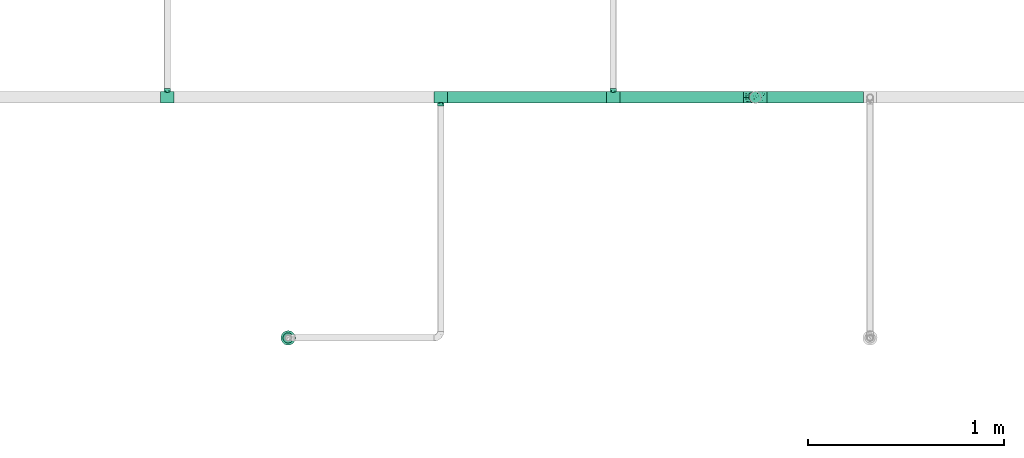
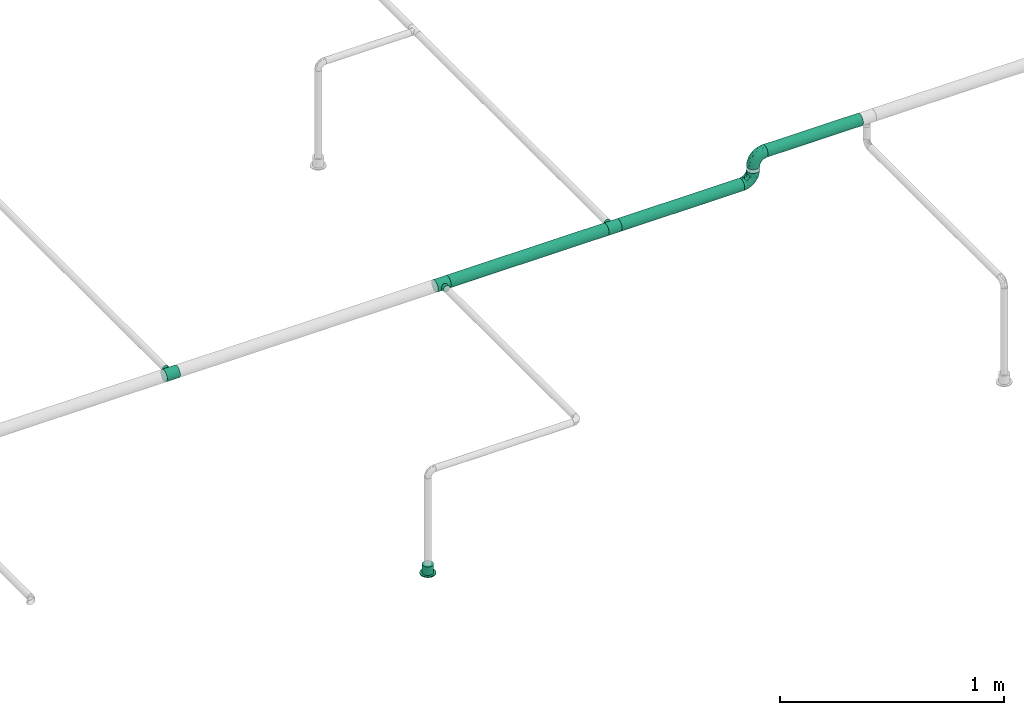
# One storey, part 20 of 95: 5 flow fittings, 3 flow segments, 1 flow terminal.
"""IFC2X3 building model written with IfcOpenShell, lengths in millimetres."""

from ifc_helpers import new_model, entity, si_unit, converted_unit, derived_unit, direction, frame, origin_with_axes, origin_2d_with_axis, place, context, subcontext, project, spatial, hollow_circle, extrude, open_shell, surface_model, source, transform, mapped, type_object, element, save


model = new_model("IFC2X3")

# Units and contexts
model_context = context("Model", 3, precision=0.01, world=frame((0.0, 4.29681676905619e-09, 0.0)), true_north=direction((4.01073788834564e-13, 1.0)))
plan_context = context("Plan", 3, precision=0.01, world=frame((0.0, 4.29681676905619e-09, 0.0)), true_north=direction((4.01073788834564e-13, 1.0)))
body_context = subcontext(model_context, "Body", "Model", "MODEL_VIEW")
ifc_project = project(units=[converted_unit("PLANEANGLEUNIT", "DEGREE", entity("IfcPositiveLengthMeasure", 0.0174532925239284), si_unit("PLANEANGLEUNIT", "RADIAN"), dimensions=[0, 0, 0, 0, 0, 0, 0]), si_unit("AREAUNIT", "SQUARE_METRE"), si_unit("LENGTHUNIT", "METRE", prefix="MILLI"), si_unit("MASSUNIT", "GRAM", prefix="KILO"), si_unit("POWERUNIT", "WATT"), si_unit("PRESSUREUNIT", "PASCAL"), si_unit("FORCEUNIT", "NEWTON", prefix="KILO"), si_unit("ELECTRICVOLTAGEUNIT", "VOLT"), si_unit("ELECTRICCURRENTUNIT", "AMPERE"), si_unit("THERMODYNAMICTEMPERATUREUNIT", "DEGREE_CELSIUS"), si_unit("TIMEUNIT", "SECOND"), si_unit("VOLUMEUNIT", "CUBIC_METRE"), derived_unit("LINEARVELOCITYUNIT", [(si_unit("LENGTHUNIT", "METRE"), 1), (si_unit("TIMEUNIT", "SECOND"), -1)]), derived_unit("VOLUMETRICFLOWRATEUNIT", [(si_unit("VOLUMEUNIT", "CUBIC_METRE"), 1), (si_unit("TIMEUNIT", "SECOND"), -1)]), derived_unit("THERMALTRANSMITTANCEUNIT", [(si_unit("POWERUNIT", "WATT"), 1), (si_unit("THERMODYNAMICTEMPERATUREUNIT", "KELVIN"), -1), (si_unit("AREAUNIT", "SQUARE_METRE"), -1)]), derived_unit("SOUNDPRESSUREUNIT", [(si_unit("PRESSUREUNIT", "PASCAL"), 1)])], contexts=[model_context, plan_context])

# Site, building, storey
site_placement = place(None, frame((0.0, -4.29681676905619e-09, 0.0), z_axis=(0.0, 0.0, 1.0), x_axis=(1.0, 0.0, 0.0)))
site = spatial("IfcSite", under=ifc_project, at=site_placement, CompositionType="ELEMENT")
building_placement = place(site_placement, frame((0.0, 4.29681676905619e-09, 0.0), z_axis=(0.0, 0.0, 1.0), x_axis=(1.0, 0.0, 0.0)))
building = spatial("IfcBuilding", under=site, at=building_placement, Name="mc-building", CompositionType="ELEMENT")
storey_placement = place(building_placement, frame((0.0, 0.0, 210900.0), z_axis=(0.0, 0.0, 1.0), x_axis=(1.0, 0.0, 0.0)))
storey = spatial("IfcBuildingStorey", under=building, at=storey_placement, Name="Nivå F", CompositionType="ELEMENT", Elevation=210900.0)

# Flow fittings
pipe_fitting_type_1 = type_object("IfcPipeFittingType", Name="magi_pipe_fe_elbow_short_001", PredefinedType="BEND")
shared_shape_1 = source(origin_with_axes(), body_context, "Body", "SurfaceModel", [
    surface_model("IfcShellBasedSurfaceModel", [(-60.4, 15.1, -26.15397), (-60.4, 7.81634, -29.17096), (-60.4, 0.0, -30.2), (-60.4, -21.35462, -21.35462), (-60.4, 26.15397, -15.1), (-60.4, 21.35462, -21.35462), (-60.4, 29.17096, -7.81634), (-60.4, -15.1, -26.15397), (-60.4, -7.81634, -29.17096), (-60.4, -26.15397, -15.1), (-60.4, -29.17096, -7.81634), (-60.4, -30.2, 0.0), (-60.4, -29.17096, 7.81634), (-60.4, 29.17096, 7.81634), (-60.4, -21.35462, 21.35462), (-60.4, 26.15397, 15.1), (-60.4, 21.35462, 21.35462), (-60.4, 7.81634, 29.17096), (-60.4, 15.1, 26.15397), (-60.4, -26.15397, 15.1), (-60.4, -7.81634, 29.17096), (-60.4, 0.0, 30.2), (-60.4, -15.1, 26.15397), (-60.4, 30.2, 0.0), (0.0, 60.4, -30.2), (-7.81634, 60.4, -29.17096), (-15.1, 60.4, -26.15397), (-26.15397, 60.4, -15.1), (-29.17096, 60.4, -7.81634), (-21.35462, 60.4, -21.35462), (29.17096, 60.4, -7.81634), (7.81634, 60.4, -29.17096), (21.35462, 60.4, -21.35462), (15.1, 60.4, -26.15397), (26.15397, 60.4, -15.1), (29.17096, 60.4, 7.81634), (30.2, 60.4, 0.0), (-29.17096, 60.4, 7.81634), (21.35462, 60.4, 21.35462), (-21.35462, 60.4, 21.35462), (-26.15397, 60.4, 15.1), (-15.1, 60.4, 26.15397), (-7.81634, 60.4, 29.17096), (26.15397, 60.4, 15.1), (15.1, 60.4, 26.15397), (0.0, 60.4, 30.2), (7.81634, 60.4, 29.17096), (-30.2, 60.4, 0.0), (-40.79975, -26.48639, 9.49143), (-44.2927, -23.46036, 16.95222), (-32.40306, -25.76572, 0.0), (-45.54716, -27.84754, 0.0), (-7.73382, -10.42985, 11.64553), (-2.102, -8.06735, 6.35117), (1.74449, -1.74448, 12.51332), (-46.13593, -4.00068, 29.68351), (-42.2898, 4.62925, 30.14853), (10.31662, 7.37496, 11.34434), (18.44156, 24.57514, 15.02148), (7.07276, 10.95732, 19.27498), (-30.06693, -0.27102, 29.27145), (-44.17726, -11.39441, 27.16031), (-23.4551, -7.13383, 25.24246), (-38.74025, -17.25266, 22.43475), (-27.059, -23.14697, 6.2131), (-19.77486, -19.33133, 0.0), (-10.95732, -7.07276, 19.27498), (-5.39458, 5.39458, 24.69106), (-29.52069, 48.20084, 13.12597), (-25.22813, 47.01796, 19.8404), (-11.27311, 52.093, 28.2877), (-4.13904, 45.17494, 30.12582), (-46.55352, 11.8443, 28.52822), (-7.88305, 20.22717, 29.65331), (-15.00576, 5.54025, 28.20072), (-3.0852, 16.31623, 27.75343), (-52.24998, 18.2886, 24.60768), (-10.49591, 29.69865, 30.14582), (-22.36958, 22.36958, 29.4662), (-17.98262, 13.19715, 30.04443), (-47.74519, 32.16745, 6.63994), (-48.21585, 29.51581, 13.12396), (-37.49729, 37.49729, 11.28901), (-47.20967, 25.1754, 19.81929), (17.25266, 38.74025, 22.43475), (-31.32046, 40.03273, 17.09289), (11.39441, 44.17725, 27.16031), (23.46036, 44.2927, 16.95222), (26.48639, 40.79975, 9.49143), (-7.14666, -12.89694, 0.0), (-14.66463, -16.61192, 7.82462), (4.00068, 46.13593, 29.68351), (-33.18602, 12.93608, 29.65955), (-29.63414, 7.40029, 30.18711), (19.33133, 19.77486, 0.0), (23.14697, 27.059, 6.2131), (16.61192, 14.66463, 7.82462), (27.84754, 45.54716, 0.0), (-32.10611, 20.49149, 27.93323), (-24.57514, -18.44156, 15.02148), (-21.89487, 39.03366, 25.38224), (-18.45005, 50.6405, 24.73297), (-31.78933, 48.71949, 6.47886), (-37.84917, 39.61073, 5.315), (13.91334, 24.32737, 20.46816), (7.13383, 23.4551, 25.24246), (-34.24603, 45.3, 0.0), (-27.95749, 31.89166, 24.81537), (-41.58677, 20.50028, 25.43151), (-0.46157, 0.46157, 17.84239), (-17.23338, 31.26213, 29.03145), (-24.05994, 29.23812, 27.47858), (-13.06094, 40.92174, 28.76128), (-31.83392, 33.72702, 21.39203), (-38.78737, 32.45032, 16.84022), (0.27102, 30.06693, 29.27145), (-24.21469, -13.23741, 21.05734), (8.23548, 2.19333, 6.02161), (25.76572, 32.40306, 0.0), (12.89694, 7.14666, 0.0), (-45.3, 34.24603, 0.0), (2.87514, -2.87514, 0.0), (-44.53432, 26.00869, -20.11577), (-48.18822, 29.5248, -13.12766), (-24.67192, -7.62159, -25.33714), (-26.22398, -0.37671, -28.72374), (-12.13397, -0.50536, -24.74577), (-47.80891, 3.81859, -30.10171), (-44.05719, -27.03585, -9.84546), (-37.94552, -22.39569, -16.35738), (-28.81663, -22.64668, -10.132), (-43.93799, 12.32789, -28.63778), (-33.27, 7.1392, -30.19348), (-26.0087, 44.53432, -20.11577), (-48.89164, 31.68872, -6.60822), (-18.95522, 47.41145, -24.9828), (-12.32789, 43.93799, -28.63778), (-38.42778, 38.42778, -7.21049), (18.04263, 43.69152, -22.80146), (10.42233, 38.24532, -26.85918), (11.90576, 51.00473, -27.48545), (-5.88381, -10.62327, -7.95335), (-5.9694, -7.83116, -13.76182), (3.24899, -2.56331, -7.96861), (-17.62229, 16.32998, -30.18286), (-28.62959, 17.86952, -29.30113), (-47.41145, 18.95522, -24.98279), (-50.84455, -24.04089, -17.54629), (-29.38053, 34.30665, -22.74674), (-27.91099, 27.91099, -26.51666), (-36.91219, 25.51094, -23.99233), (2.63361, -0.55507, -12.94367), (-43.69152, -18.04263, -22.80146), (22.39569, 37.94552, -16.35738), (27.03585, 44.05719, -9.84546), (22.64668, 28.81663, -10.132), (-51.00473, -11.90576, -27.48545), (3.80785, 44.49426, -29.64782), (-19.0921, -14.69952, -16.47487), (-22.5489, -12.31934, -21.1263), (-10.94772, -7.46239, -18.88204), (-32.95885, -13.78948, -23.71249), (-38.24532, -10.42233, -26.85918), (-44.49427, -3.80785, -29.64782), (-22.6301, 37.15314, -25.58239), (-31.68872, 48.89164, -6.60822), (-3.8186, 47.80891, -30.10171), (-10.66133, 10.66133, -28.51691), (0.37671, 26.22398, -28.72374), (1.27136, 14.18619, -25.18541), (-29.5248, 48.18821, -13.12766), (-36.27113, 36.27113, -14.88553), (24.04089, 50.84455, -17.54629), (17.50188, 24.2636, -16.21902), (9.73525, 11.44907, -16.75087), (12.31934, 22.5489, -21.1263), (6.24176, 25.78208, -26.38266), (-7.1392, 33.27, -30.19348), (-36.7166, 19.4356, -27.21946), (-18.00754, 29.38864, -29.15505), (-0.28629, 0.28629, -17.49884), (-13.98848, -16.88492, -5.19509), (15.48569, 15.00432, -11.24742), (16.88492, 13.98848, -5.19509), (3.55782, 9.20508, -21.18402), (-15.00432, -15.48569, -11.24742)], [open_shell([[[0, 1, 2]], [[0, 2, 3]], [[4, 0, 3]], [[5, 0, 4]], [[6, 4, 3]], [[7, 3, 8]], [[3, 2, 8]], [[9, 10, 3]], [[3, 10, 6]], [[11, 12, 10]], [[13, 6, 10]], [[13, 10, 14]], [[15, 13, 16]], [[17, 18, 16]], [[13, 17, 16]], [[17, 13, 14]], [[19, 14, 12]], [[12, 14, 10]], [[20, 21, 22]], [[17, 14, 22]], [[17, 22, 21]], [[13, 23, 6]], [[24, 25, 26]], [[24, 26, 27]], [[27, 28, 24]], [[27, 26, 29]], [[24, 28, 30]], [[31, 32, 33]], [[31, 24, 32]], [[32, 30, 34]], [[24, 30, 32]], [[30, 35, 36]], [[30, 28, 37]], [[38, 30, 37]], [[39, 37, 40]], [[39, 41, 42]], [[39, 42, 37]], [[38, 37, 42]], [[35, 38, 43]], [[30, 38, 35]], [[44, 45, 46]], [[44, 38, 42]], [[45, 44, 42]], [[28, 47, 37]], [[48, 49, 19]], [[50, 48, 51]], [[52, 53, 54]], [[12, 48, 19]], [[12, 51, 48]], [[21, 55, 56]], [[19, 49, 14]], [[57, 58, 59]], [[60, 61, 62]], [[63, 22, 14]], [[63, 61, 22]], [[64, 50, 65]], [[62, 66, 67]], [[40, 68, 69]], [[42, 70, 71]], [[17, 72, 18]], [[73, 74, 75]], [[18, 76, 16]], [[20, 55, 21]], [[77, 78, 79]], [[80, 81, 82]], [[15, 83, 81]], [[84, 38, 44]], [[23, 13, 80]], [[13, 15, 81]], [[68, 85, 69]], [[83, 15, 16]], [[21, 56, 17]], [[44, 86, 84]], [[16, 76, 83]], [[87, 58, 88]], [[40, 37, 68]], [[89, 90, 65]], [[45, 91, 46]], [[65, 90, 64]], [[45, 42, 71]], [[92, 93, 79]], [[88, 35, 43]], [[43, 38, 87]], [[87, 88, 43]], [[94, 95, 96]], [[88, 97, 35]], [[98, 72, 92]], [[49, 99, 63]], [[69, 100, 101]], [[82, 102, 103]], [[104, 105, 59]], [[106, 102, 47]], [[98, 107, 108]], [[102, 82, 68]], [[86, 44, 46]], [[69, 39, 40]], [[109, 54, 57]], [[110, 100, 111]], [[22, 61, 20]], [[101, 41, 39]], [[70, 42, 41]], [[112, 77, 71]], [[84, 86, 105]], [[96, 95, 58]], [[100, 69, 113]], [[72, 17, 56]], [[108, 113, 83]], [[81, 114, 82]], [[112, 110, 77]], [[91, 71, 115]], [[62, 61, 63]], [[55, 61, 60]], [[116, 99, 66]], [[74, 62, 67]], [[91, 86, 46]], [[105, 86, 115]], [[75, 105, 115]], [[109, 67, 66]], [[59, 105, 67]], [[48, 64, 99]], [[99, 49, 48]], [[63, 14, 49]], [[38, 84, 87]], [[58, 87, 84]], [[92, 72, 56]], [[76, 72, 108]], [[102, 68, 37]], [[82, 114, 85]], [[98, 111, 107]], [[112, 70, 101]], [[114, 83, 113]], [[82, 103, 80]], [[92, 79, 78]], [[115, 71, 77]], [[74, 79, 60]], [[77, 79, 73]], [[71, 91, 45]], [[86, 91, 115]], [[61, 55, 20]], [[56, 55, 60]], [[57, 54, 117]], [[104, 59, 58]], [[116, 66, 62]], [[52, 99, 90]], [[12, 11, 51]], [[97, 88, 118]], [[97, 36, 35]], [[53, 90, 89]], [[90, 53, 52]], [[94, 96, 119]], [[88, 95, 118]], [[117, 54, 53]], [[92, 56, 93]], [[98, 92, 78]], [[111, 98, 78]], [[72, 98, 108]], [[110, 111, 78]], [[107, 111, 100]], [[47, 102, 37]], [[102, 106, 103]], [[106, 120, 103]], [[103, 120, 80]], [[23, 80, 120]], [[13, 81, 80]], [[56, 60, 93]], [[60, 79, 93]], [[117, 121, 119]], [[121, 117, 53]], [[53, 89, 121]], [[119, 96, 117]], [[117, 96, 57]], [[77, 110, 78]], [[100, 110, 112]], [[83, 114, 81]], [[85, 114, 113]], [[69, 85, 113]], [[82, 85, 68]], [[109, 52, 54]], [[99, 52, 66]], [[69, 101, 39]], [[112, 101, 100]], [[100, 113, 107]], [[108, 107, 113]], [[62, 74, 60]], [[75, 74, 67]], [[105, 75, 67]], [[73, 75, 115]], [[77, 73, 115]], [[74, 73, 79]], [[99, 64, 90]], [[50, 64, 48]], [[118, 95, 94]], [[58, 95, 88]], [[58, 57, 96]], [[109, 57, 59]], [[72, 76, 18]], [[83, 76, 108]], [[101, 70, 41]], [[71, 70, 112]], [[58, 84, 104]], [[105, 104, 84]], [[67, 109, 59]], [[52, 109, 66]], [[62, 63, 116]], [[99, 116, 63]], [[122, 4, 123]], [[124, 125, 126]], [[2, 1, 127]], [[128, 129, 130]], [[127, 131, 132]], [[27, 29, 133]], [[120, 134, 23]], [[135, 26, 136]], [[123, 134, 137]], [[138, 139, 140]], [[122, 5, 4]], [[141, 142, 143]], [[144, 132, 145]], [[131, 0, 146]], [[128, 9, 147]], [[148, 149, 150]], [[128, 51, 10]], [[142, 151, 143]], [[152, 3, 7]], [[153, 154, 155]], [[156, 152, 7]], [[31, 157, 24]], [[158, 159, 160]], [[147, 9, 3]], [[129, 152, 161]], [[156, 7, 8]], [[162, 163, 125]], [[154, 34, 30]], [[120, 106, 137]], [[149, 148, 164]], [[47, 28, 165]], [[163, 8, 2]], [[4, 6, 123]], [[25, 166, 136]], [[167, 168, 169]], [[170, 133, 171]], [[25, 24, 166]], [[33, 32, 138]], [[157, 31, 140]], [[28, 27, 170]], [[32, 34, 172]], [[26, 135, 29]], [[132, 131, 145]], [[31, 33, 140]], [[173, 174, 175]], [[169, 168, 176]], [[25, 136, 26]], [[175, 138, 173]], [[168, 177, 157]], [[163, 162, 156]], [[153, 172, 154]], [[9, 128, 10]], [[154, 97, 118]], [[131, 178, 145]], [[0, 5, 146]], [[175, 139, 138]], [[155, 118, 94]], [[131, 1, 0]], [[146, 178, 131]], [[170, 137, 165]], [[149, 179, 145]], [[171, 133, 148]], [[160, 180, 142]], [[65, 181, 89]], [[170, 165, 28]], [[137, 171, 123]], [[172, 138, 32]], [[138, 153, 173]], [[168, 157, 139]], [[166, 157, 177]], [[176, 175, 169]], [[168, 167, 144]], [[154, 30, 97]], [[155, 182, 173]], [[162, 124, 161]], [[147, 152, 129]], [[127, 163, 2]], [[132, 144, 125]], [[132, 125, 163]], [[125, 167, 126]], [[129, 158, 130]], [[30, 36, 97]], [[143, 182, 183]], [[169, 126, 167]], [[5, 122, 146]], [[178, 150, 149]], [[136, 179, 164]], [[133, 29, 135]], [[123, 6, 134]], [[122, 123, 171]], [[133, 170, 27]], [[137, 170, 171]], [[184, 175, 174]], [[180, 160, 126]], [[126, 169, 184]], [[126, 159, 124]], [[51, 128, 50]], [[51, 11, 10]], [[131, 127, 1]], [[163, 127, 132]], [[157, 166, 24]], [[136, 166, 177]], [[164, 179, 149]], [[144, 167, 125]], [[179, 144, 145]], [[168, 144, 177]], [[136, 177, 179]], [[144, 179, 177]], [[141, 121, 89]], [[89, 181, 141]], [[154, 118, 155]], [[183, 155, 94]], [[143, 183, 119]], [[119, 183, 94]], [[155, 183, 182]], [[181, 130, 185]], [[50, 128, 130]], [[130, 181, 65]], [[50, 130, 65]], [[141, 181, 185]], [[142, 141, 185]], [[143, 121, 141]], [[158, 160, 142]], [[142, 180, 151]], [[158, 142, 185]], [[126, 160, 159]], [[130, 158, 185]], [[129, 159, 158]], [[23, 134, 6]], [[120, 137, 134]], [[137, 106, 165]], [[47, 165, 106]], [[174, 151, 180]], [[182, 143, 151]], [[150, 146, 122]], [[149, 145, 178]], [[146, 150, 178]], [[122, 171, 148]], [[148, 150, 122]], [[164, 133, 135]], [[133, 164, 148]], [[164, 135, 136]], [[138, 140, 33]], [[157, 140, 139]], [[154, 172, 34]], [[138, 172, 153]], [[163, 156, 8]], [[152, 156, 162]], [[152, 147, 3]], [[128, 147, 129]], [[155, 173, 153]], [[174, 173, 182]], [[151, 174, 182]], [[174, 180, 184]], [[126, 184, 180]], [[175, 184, 169]], [[168, 139, 176]], [[175, 176, 139]], [[161, 124, 159]], [[125, 124, 162]], [[129, 161, 159]], [[162, 161, 152]], [[143, 119, 121]]])]),
])
for number, where, z_axis, x_axis, name in (
    (1, (528108.06458, 450838.0, 4315.0), (0.0, -1.0, 0.0), (1.0, 0.0, 0.0), "magi_pipe_fe_elbow_short_001"),
    (2, (528108.06458, 450838.0, 4455.47503999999), (0.0, 1.0, 0.0), (0.0, 0.0, 1.0), "magi_pipe_fe_elbow_short_001"),
):
    element("IfcFlowFitting", number, at=place(storey_placement, frame(where, z_axis=z_axis, x_axis=x_axis)), inside=storey, type_object=pipe_fitting_type_1, Name=name, context=body_context, shape_type="MappedRepresentation", body=[
        mapped(shared_shape_1, transform((0.0, 0.0, 0.0), scale=1.0)),
    ])
pipe_fitting_type_2 = type_object("IfcPipeFittingType", Name="magi_pipe_fe_tee_centric_90_NOR", PredefinedType="JUNCTION")
shared_shape_2 = source(origin_with_axes(), body_context, "Body", "SurfaceModel", [
    surface_model("IfcShellBasedSurfaceModel", [(-33.8, 15.1, -26.15397), (-33.8, 7.81634, -29.17096), (-33.8, 0.0, -30.2), (-33.8, 29.17096, -7.81634), (-33.8, 26.15397, -15.1), (-33.8, 21.35462, -21.35462), (-33.8, 30.2, 0.0), (-33.8, -30.2, 0.0), (-33.8, -15.1, -26.15397), (-33.8, -21.35462, -21.35462), (-33.8, -7.81634, -29.17096), (-33.8, -26.15397, -15.1), (-33.8, -29.17096, -7.81634), (-33.8, 26.15397, 15.1), (-33.8, 29.17096, 7.81634), (-33.8, 15.1, 26.15397), (-33.8, -21.35462, 21.35462), (-33.8, 21.35462, 21.35462), (-33.8, 7.81634, 29.17096), (-33.8, -29.17096, 7.81634), (-33.8, -26.15397, 15.1), (-33.8, -7.81634, 29.17096), (-33.8, 0.0, 30.2), (-33.8, -15.1, 26.15397), (33.8, 29.17096, -7.81634), (33.8, 0.0, -30.2), (33.8, 7.81634, -29.17096), (33.8, 21.35462, -21.35462), (33.8, 15.1, -26.15397), (33.8, 26.15397, -15.1), (33.8, -30.2, 0.0), (33.8, -7.81634, -29.17096), (33.8, -21.35462, -21.35462), (33.8, -15.1, -26.15397), (33.8, -29.17096, -7.81634), (33.8, -26.15397, -15.1), (33.8, 30.2, 0.0), (33.8, 29.17096, 7.81634), (33.8, 26.15397, 15.1), (33.8, -29.17096, 7.81634), (33.8, 15.1, 26.15397), (33.8, 7.81634, 29.17096), (33.8, 21.35462, 21.35462), (33.8, -21.35462, 21.35462), (33.8, -26.15397, 15.1), (33.8, -15.1, 26.15397), (33.8, 0.0, 30.2), (33.8, -7.81634, 29.17096), (33.8, -29.68548, 3.90817), (15.846, -29.62306, 5.87488), (16.373, -29.91153, 2.93744), (12.91037, -28.16217, 10.90561), (2.99213, -25.2068, 16.63301), (16.9, -30.2, 0.0), (33.8, -27.66246, 11.45817), (8.50854, -26.43531, 14.60187), (-8.51006, -26.43579, 14.60099), (-33.8, -27.66246, 11.45817), (-12.91447, -28.16405, 10.90075), (-15.84655, -29.62335, 5.87341), (-33.8, -29.68548, 3.90817), (-16.37327, -29.91168, 2.93671), (-16.9, -30.2, 0.0), (-2.99705, -25.20739, 16.63213), (2.99213, -25.2068, -16.63301), (-16.37327, -29.91168, -2.93671), (8.50854, -26.43531, -14.60187), (33.8, -27.66246, -11.45817), (16.373, -29.91153, -2.93744), (-33.8, -29.68548, -3.90817), (-15.84655, -29.62335, -5.87341), (15.846, -29.62306, -5.87488), (12.91037, -28.16217, -10.90561), (33.8, -29.68548, -3.90817), (-2.99705, -25.20739, -16.63213), (-8.51006, -26.43579, -14.60099), (-12.91447, -28.16405, -10.90075), (-33.8, -27.66246, -11.45817), (4.37404, -45.3, -16.32415), (-16.9, -45.3, 0.0), (0.0, -45.3, -16.9), (14.63583, -45.3, -8.45), (8.45, -45.3, -14.63583), (16.32415, -45.3, -4.37404), (11.9501, -45.3, -11.9501), (-11.9501, -45.3, -11.9501), (-8.45, -45.3, -14.63583), (-4.37404, -45.3, -16.32415), (-14.63583, -45.3, -8.45), (-16.32415, -45.3, -4.37404), (16.9, -45.3, 0.0), (8.45, -45.3, 14.63583), (16.32415, -45.3, 4.37404), (14.63583, -45.3, 8.45), (-8.45, -45.3, 14.63583), (11.9501, -45.3, 11.9501), (4.37404, -45.3, 16.32415), (-16.32415, -45.3, 4.37404), (-11.9501, -45.3, 11.9501), (-14.63583, -45.3, 8.45), (0.0, -45.3, 16.9), (-4.37404, -45.3, 16.32415), (-5.75355, -25.82159, 15.61656), (-0.00246, -25.20709, 16.63257), (5.75034, -25.82105, 15.61744), (5.75034, -25.82105, -15.61744), (-0.00246, -25.20709, -16.63257), (-5.75355, -25.82159, -15.61656)], [open_shell([[[0, 1, 2]], [[3, 0, 2]], [[0, 3, 4]], [[5, 0, 4]], [[6, 2, 7]], [[8, 9, 10]], [[9, 2, 10]], [[11, 12, 9]], [[7, 9, 12]], [[9, 7, 2]], [[6, 3, 2]], [[13, 14, 6]], [[7, 15, 13]], [[7, 16, 15]], [[17, 13, 15]], [[18, 15, 16]], [[19, 20, 7]], [[7, 20, 16]], [[21, 22, 23]], [[16, 23, 22]], [[16, 22, 18]], [[7, 13, 6]], [[24, 25, 26]], [[27, 26, 28]], [[29, 24, 26]], [[29, 26, 27]], [[25, 24, 30]], [[31, 32, 33]], [[32, 31, 34]], [[32, 34, 35]], [[34, 31, 30]], [[31, 25, 30]], [[24, 36, 30]], [[36, 37, 38]], [[39, 36, 38]], [[40, 41, 38]], [[40, 38, 42]], [[43, 38, 41]], [[39, 43, 44]], [[39, 38, 43]], [[45, 46, 47]], [[46, 45, 43]], [[41, 46, 43]], [[36, 39, 30]], [[48, 39, 49]], [[30, 48, 50]], [[39, 51, 49]], [[44, 43, 52]], [[30, 50, 53]], [[51, 54, 55]], [[52, 55, 44]], [[48, 49, 50]], [[43, 16, 52]], [[55, 54, 44]], [[56, 57, 58]], [[59, 60, 61]], [[62, 61, 7]], [[59, 58, 19]], [[56, 63, 20]], [[51, 39, 54]], [[20, 57, 56]], [[20, 63, 16]], [[58, 57, 19]], [[63, 52, 16]], [[7, 61, 60]], [[59, 19, 60]], [[43, 23, 16]], [[22, 47, 46]], [[21, 45, 47]], [[18, 46, 41]], [[38, 37, 14]], [[17, 40, 42]], [[13, 42, 38]], [[41, 40, 15]], [[6, 37, 36]], [[23, 45, 21]], [[21, 47, 22]], [[18, 22, 46]], [[41, 15, 18]], [[15, 40, 17]], [[13, 17, 42]], [[14, 13, 38]], [[37, 6, 14]], [[45, 23, 43]], [[4, 24, 29]], [[3, 36, 24]], [[5, 29, 27]], [[25, 31, 10]], [[1, 28, 26]], [[2, 26, 25]], [[27, 28, 0]], [[8, 31, 33]], [[6, 36, 3]], [[3, 24, 4]], [[5, 4, 29]], [[27, 0, 5]], [[0, 28, 1]], [[2, 1, 26]], [[10, 2, 25]], [[31, 8, 10]], [[33, 9, 8]], [[32, 35, 64]], [[7, 65, 62]], [[66, 64, 35]], [[67, 66, 35]], [[32, 64, 9]], [[53, 68, 30]], [[69, 70, 65]], [[71, 72, 34]], [[71, 73, 68]], [[66, 67, 72]], [[34, 72, 67]], [[74, 75, 11]], [[76, 12, 77]], [[11, 9, 74]], [[76, 77, 75]], [[74, 9, 64]], [[76, 70, 12]], [[71, 34, 73]], [[70, 69, 12]], [[65, 7, 69]], [[30, 68, 73]], [[77, 11, 75]], [[32, 9, 33]], [[78, 79, 80]], [[81, 78, 82]], [[81, 83, 78]], [[81, 82, 84]], [[79, 78, 83]], [[80, 85, 86]], [[86, 87, 80]], [[88, 79, 89]], [[85, 80, 88]], [[79, 88, 80]], [[83, 90, 79]], [[91, 90, 92]], [[91, 92, 93]], [[94, 79, 91]], [[91, 93, 95]], [[94, 91, 96]], [[97, 98, 99]], [[98, 97, 94]], [[94, 100, 101]], [[97, 79, 94]], [[96, 100, 94]], [[91, 79, 90]], [[97, 61, 79]], [[58, 99, 98]], [[97, 99, 59]], [[98, 94, 56]], [[61, 62, 79]], [[59, 99, 58]], [[101, 63, 102]], [[56, 58, 98]], [[100, 52, 103]], [[91, 104, 96]], [[100, 96, 52]], [[50, 49, 92]], [[50, 90, 53]], [[104, 91, 55]], [[102, 94, 101]], [[102, 56, 94]], [[100, 63, 101]], [[97, 59, 61]], [[55, 91, 95]], [[95, 51, 55]], [[52, 96, 104]], [[92, 49, 93]], [[90, 50, 92]], [[93, 49, 51]], [[93, 51, 95]], [[103, 63, 100]], [[83, 68, 90]], [[72, 81, 84]], [[83, 81, 71]], [[84, 82, 66]], [[68, 53, 90]], [[71, 81, 72]], [[78, 64, 105]], [[66, 72, 84]], [[80, 74, 106]], [[86, 107, 87]], [[65, 70, 89]], [[105, 82, 78]], [[105, 66, 82]], [[75, 86, 85]], [[83, 71, 68]], [[70, 88, 89]], [[65, 79, 62]], [[85, 88, 76]], [[80, 64, 78]], [[87, 107, 74]], [[74, 80, 87]], [[75, 107, 86]], [[75, 85, 76]], [[76, 88, 70]], [[79, 65, 89]], [[106, 64, 80]]])]),
])
for number, where, z_axis, x_axis, name in (
    (3, (526498.79194, 450838.0, 4315.0), (0.0, 0.0, 1.0), (1.0, 0.0, 0.0), "magi_pipe_fe_tee_centric_90_NOR"),
    (4, (527381.43724, 450838.0, 4315.0), (0.0, 0.0, -1.0), (1.0, 0.0, 0.0), "magi_pipe_fe_tee_centric_90_NOR"),
    (5, (525100.25962, 450838.0, 4315.0), (0.0, 0.0, 1.0), (-1.0, 0.0, 0.0), "magi_pipe_fe_tee_centric_90_NOR"),
):
    element("IfcFlowFitting", number, at=place(storey_placement, frame(where, z_axis=z_axis, x_axis=x_axis)), inside=storey, type_object=pipe_fitting_type_2, Name=name, context=body_context, shape_type="MappedRepresentation", body=[
        mapped(shared_shape_2, transform((0.0, 0.0, 0.0), scale=1.0)),
    ])

# Flow segments
pipe_segment_type = type_object("IfcPipeSegmentType", Name="Stålrør normaltykke", PredefinedType="RIGIDSEGMENT")
shared_shape_3 = source(origin_with_axes(), body_context, "Body", "SweptSolid", [
    extrude(hollow_circle(Radius=30.1, WallThickness=2.0, at=origin_2d_with_axis()), frame((0.0, 0.0, 0.0), z_axis=(1.0, 0.0, 0.0), x_axis=(0.0, 1.0, 0.0)), (0.0, 0.0, 1.0), 815.0),
])
flow_segment_1_placement = place(storey_placement, frame((527347.63724, 450838.0, 4315.0), z_axis=(0.0, 0.0, 1.0), x_axis=(-1.0, 0.0, 0.0)))
element("IfcFlowSegment", 6, at=flow_segment_1_placement, inside=storey, type_object=pipe_segment_type, Name="Stålrør normaltykke", context=body_context, shape_type="MappedRepresentation", body=[
    mapped(shared_shape_3, transform((0.0, 0.0, 0.0), scale=1.0)),
])
shared_shape_4 = source(origin_with_axes(), body_context, "Body", "SweptSolid", [
    extrude(hollow_circle(Radius=30.1, WallThickness=2.0, at=origin_2d_with_axis()), frame((0.0, 0.0, 0.0), z_axis=(1.0, 0.0, 0.0), x_axis=(0.0, 1.0, 0.0)), (0.0, 0.0, 1.0), 632.4),
])
flow_segment_2_placement = place(storey_placement, frame((528047.66458, 450838.0, 4315.0), z_axis=(0.0, 0.0, 1.0), x_axis=(-1.0, 0.0, 0.0)))
element("IfcFlowSegment", 7, at=flow_segment_2_placement, inside=storey, type_object=pipe_segment_type, Name="Stålrør normaltykke", context=body_context, shape_type="MappedRepresentation", body=[
    mapped(shared_shape_4, transform((0.0, 0.0, 0.0), scale=1.0)),
])
shared_shape_5 = source(origin_with_axes(), body_context, "Body", "SweptSolid", [
    extrude(hollow_circle(Radius=30.1, WallThickness=2.0, at=origin_2d_with_axis()), frame((0.0, 0.0, 0.0), z_axis=(1.0, 0.0, 0.0), x_axis=(0.0, 1.0, 0.0)), (0.0, 0.0, 1.0), 492.0),
])
flow_segment_3_placement = place(storey_placement, frame((528168.46458, 450838.0, 4455.47503999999), z_axis=(0.0, 0.0, 1.0), x_axis=(1.0, 0.0, 0.0)))
element("IfcFlowSegment", 8, at=flow_segment_3_placement, inside=storey, type_object=pipe_segment_type, Name="Stålrør normaltykke", context=body_context, shape_type="MappedRepresentation", body=[
    mapped(shared_shape_5, transform((0.0, 0.0, 0.0), scale=1.0)),
])

# Flow terminal
fire_suppression_terminal_type = type_object("IfcFireSuppressionTerminalType", Name="68DGR-STD-SKJULT I HIMLING", PredefinedType="NOTDEFINED")
shared_shape_6 = source(origin_with_axes(), body_context, "Body", "SurfaceModel", [
    surface_model("IfcShellBasedSurfaceModel", [(-26.0, 0.0, -46.0), (-25.11407, -6.72929, -46.0), (-25.11407, -6.72929, 0.0), (6.72929, -25.11407, 0.0), (6.72929, -25.11407, -46.0), (13.0, -22.51666, -46.0), (22.51666, -13.0, -46.0), (22.51666, -13.0, 0.0), (18.38478, -18.38478, 0.0), (25.11407, -6.72929, 0.0), (25.11407, -6.72929, -46.0), (26.0, 0.0, -46.0), (26.0, 0.0, 0.0), (25.11407, 6.72929, -46.0), (22.51666, 13.0, 0.0), (25.11407, 6.72929, 0.0), (13.0, 22.51666, -46.0), (6.72929, 25.11407, -46.0), (6.72929, 25.11407, 0.0), (18.38478, 18.38478, 0.0), (22.51666, 13.0, -46.0), (-25.11407, 6.72929, 0.0), (-25.11407, 6.72929, -46.0), (-26.16295, -26.16295, 5.0), (35.73926, -9.57631, 5.0), (37.0, 0.0, 5.0), (13.0, 22.51666, 0.0), (-26.0, 0.0, 0.0), (-13.0, 22.51666, 0.0), (-6.72929, 25.11407, 0.0), (0.0, 26.0, 0.0), (-22.51666, 13.0, 0.0), (-18.38478, 18.38478, 0.0), (13.0, -22.51666, 0.0), (0.0, -26.0, 0.0), (-22.51666, -13.0, 0.0), (-18.38478, -18.38478, 0.0), (-13.0, -22.51666, 0.0), (-6.72929, -25.11407, 0.0), (0.0, -26.0, -46.0), (18.38478, -18.38478, -46.0), (-18.38478, -18.38478, -46.0), (-13.0, -22.51666, -46.0), (-6.72929, -25.11407, -46.0), (-22.51666, -13.0, -46.0), (18.38478, 18.38478, -46.0), (-22.51666, 13.0, -46.0), (-18.38478, 18.38478, -46.0), (-13.0, 22.51666, -46.0), (-6.72929, 25.11407, -46.0), (0.0, 26.0, -46.0), (18.5, 32.04294, 5.0), (9.57631, 35.73926, 5.0), (35.73926, 9.57631, 5.0), (26.16295, 26.16295, 5.0), (32.04294, 18.5, 5.0), (-35.73926, -9.57631, 5.0), (-18.5, 32.04294, 5.0), (-9.57631, 35.73926, 5.0), (0.0, 37.0, 5.0), (-32.04294, 18.5, 5.0), (-35.73926, 9.57631, 5.0), (-26.16295, 26.16295, 5.0), (-37.0, 0.0, 5.0), (32.04294, -18.5, 5.0), (0.0, -37.0, 5.0), (26.16295, -26.16295, 5.0), (18.5, -32.04294, 5.0), (9.57631, -35.73926, 5.0), (-9.57631, -35.73926, 5.0), (-32.04294, -18.5, 5.0), (-18.5, -32.04294, 5.0), (18.5, -32.04294, 0.0), (9.57631, -35.73926, 0.0), (0.0, -37.0, 0.0), (32.04294, -18.5, 0.0), (-26.16295, -26.16295, 0.0), (26.16295, -26.16295, 0.0), (-35.73926, 9.57631, 0.0), (-18.5, -32.04294, 0.0), (-9.57631, -35.73926, 0.0), (-32.04294, -18.5, 0.0), (-35.73926, -9.57631, 0.0), (-37.0, 0.0, 0.0), (35.73926, -9.57631, 0.0), (35.73926, 9.57631, 0.0), (32.04294, 18.5, 0.0), (18.5, 32.04294, 0.0), (9.57631, 35.73926, 0.0), (26.16295, 26.16295, 0.0), (-32.04294, 18.5, 0.0), (-26.16295, 26.16295, 0.0), (-9.57631, 35.73926, 0.0), (0.0, 37.0, 0.0), (-18.5, 32.04294, 0.0), (37.0, 0.0, 0.0)], [open_shell([[[0, 1, 2]], [[3, 4, 5]], [[6, 7, 8]], [[9, 7, 10]], [[11, 12, 9]], [[13, 14, 15]], [[15, 12, 11]], [[16, 17, 18]], [[19, 14, 20]], [[21, 22, 0]], [[23, 24, 25]], [[19, 26, 18]], [[19, 18, 21]], [[27, 15, 19]], [[14, 19, 15]], [[19, 21, 27]], [[28, 21, 29]], [[18, 30, 29]], [[31, 21, 32]], [[28, 32, 21]], [[29, 21, 18]], [[12, 15, 27]], [[8, 7, 9]], [[33, 8, 9]], [[34, 3, 33]], [[9, 34, 33]], [[27, 34, 9]], [[2, 35, 27]], [[36, 27, 35]], [[37, 38, 36]], [[34, 27, 36]], [[36, 38, 34]], [[12, 27, 9]], [[5, 4, 39]], [[5, 39, 22]], [[10, 6, 40]], [[5, 10, 40]], [[39, 41, 22]], [[42, 41, 43]], [[41, 39, 43]], [[1, 0, 44]], [[44, 0, 22]], [[22, 41, 44]], [[10, 5, 22]], [[45, 13, 10]], [[20, 13, 45]], [[17, 16, 45]], [[10, 22, 45]], [[45, 22, 17]], [[46, 47, 22]], [[48, 22, 47]], [[48, 49, 22]], [[49, 17, 22]], [[49, 50, 17]], [[11, 10, 13]], [[46, 22, 21]], [[46, 31, 47]], [[49, 48, 28]], [[32, 48, 47]], [[50, 49, 29]], [[21, 0, 27]], [[21, 31, 46]], [[31, 32, 47]], [[48, 32, 28]], [[28, 29, 49]], [[29, 30, 50]], [[16, 26, 45]], [[13, 20, 14]], [[19, 20, 45]], [[11, 13, 15]], [[30, 18, 17]], [[18, 26, 16]], [[26, 19, 45]], [[50, 30, 17]], [[11, 9, 10]], [[10, 7, 6]], [[3, 39, 4]], [[6, 8, 40]], [[3, 5, 33]], [[8, 33, 5]], [[5, 40, 8]], [[3, 34, 39]], [[42, 43, 38]], [[42, 37, 41]], [[1, 44, 35]], [[36, 44, 41]], [[34, 38, 43]], [[38, 37, 42]], [[37, 36, 41]], [[36, 35, 44]], [[1, 35, 2]], [[2, 27, 0]], [[39, 34, 43]], [[51, 52, 53]], [[54, 51, 55]], [[56, 52, 57]], [[55, 51, 53]], [[52, 56, 53]], [[58, 57, 59]], [[57, 52, 59]], [[60, 61, 62]], [[57, 62, 63]], [[62, 61, 63]], [[53, 23, 25]], [[64, 24, 65]], [[66, 64, 67]], [[65, 68, 67]], [[64, 65, 67]], [[69, 65, 24]], [[70, 23, 56]], [[56, 57, 63]], [[71, 69, 23]], [[23, 53, 56]], [[24, 23, 69]], [[72, 73, 74]], [[75, 72, 74]], [[76, 75, 74]], [[77, 72, 75]], [[75, 76, 78]], [[79, 76, 80]], [[76, 74, 80]], [[81, 82, 76]], [[82, 78, 76]], [[83, 78, 82]], [[75, 78, 84]], [[85, 84, 78]], [[86, 85, 87]], [[85, 88, 87]], [[89, 86, 87]], [[88, 85, 78]], [[90, 91, 78]], [[91, 88, 78]], [[92, 93, 94]], [[88, 91, 94]], [[88, 94, 93]], [[95, 84, 85]], [[83, 61, 78]], [[78, 60, 90]], [[94, 91, 57]], [[62, 91, 90]], [[92, 94, 58]], [[61, 60, 78]], [[83, 63, 61]], [[94, 57, 58]], [[57, 91, 62]], [[90, 60, 62]], [[92, 58, 59]], [[59, 93, 92]], [[93, 52, 88]], [[88, 51, 87]], [[86, 89, 55]], [[54, 89, 87]], [[85, 86, 53]], [[51, 54, 87]], [[88, 52, 51]], [[85, 53, 25]], [[53, 86, 55]], [[89, 54, 55]], [[85, 25, 95]], [[59, 52, 93]], [[95, 24, 84]], [[84, 64, 75]], [[72, 77, 67]], [[66, 77, 75]], [[73, 72, 68]], [[24, 64, 84]], [[95, 25, 24]], [[72, 67, 68]], [[67, 77, 66]], [[75, 64, 66]], [[73, 68, 65]], [[65, 74, 73]], [[74, 69, 80]], [[80, 71, 79]], [[81, 76, 70]], [[23, 76, 79]], [[82, 81, 56]], [[71, 23, 79]], [[80, 69, 71]], [[82, 56, 63]], [[56, 81, 70]], [[76, 23, 70]], [[82, 63, 83]], [[65, 69, 74]]])]),
])
flow_terminal_placement = place(storey_placement, frame((525718.79194, 449607.85, 3759.89999999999), z_axis=(0.0, 0.0, -1.0), x_axis=(1.0, 0.0, 0.0)))
element("IfcFlowTerminal", 9, at=flow_terminal_placement, inside=storey, type_object=fire_suppression_terminal_type, Name="68DGR-STD-SKJULT I HIMLING", context=body_context, shape_type="MappedRepresentation", body=[
    mapped(shared_shape_6, transform((0.0, 0.0, 0.0), scale=1.0)),
])

save(model, "model.ifc")
